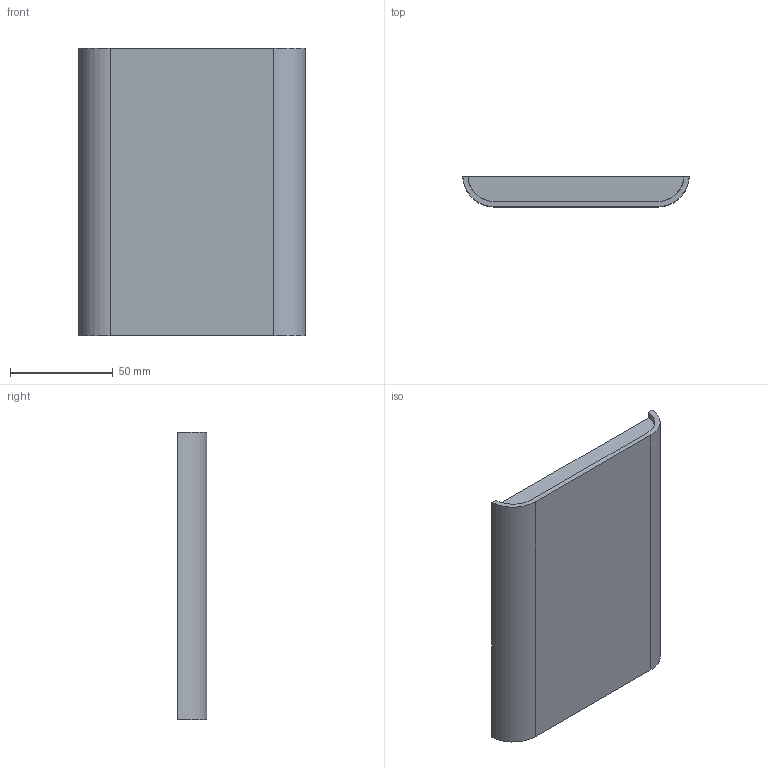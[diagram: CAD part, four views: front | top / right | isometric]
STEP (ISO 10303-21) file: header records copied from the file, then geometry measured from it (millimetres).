
FILE_DESCRIPTION((''),'2;1');
FILE_NAME('E:\Eng\Customer Service\Drawings\1597\STEP\1597 Lid.stp','2010-11-01T15:45:45',('tcook'),(''),'Autodesk Inventor 2011','Autodesk Inventor 2011','');
FILE_SCHEMA(('AUTOMOTIVE_DESIGN { 1 0 10303 214 1 1 1 1 }'));
Length unit declared in the file: inch
Products named in the file (1): 1597 Top
Bounding box: 109.98 x 14.48 x 139.7 mm (x, y, z)
Volume: 46280.3 mm3; surface area: 40132 mm2
Topology: 1 solids, 1 shells, 85 faces, 198 edges, 116 vertices
Faces by surface type: plane 65, cylinder 20
Entity records: 2394 total; most frequent: DIRECTION 428, CARTESIAN_POINT 400, ORIENTED_EDGE 396, EDGE_CURVE 198, AXIS2_PLACEMENT_3D 144, VECTOR 140, LINE 140, VERTEX_POINT 116
